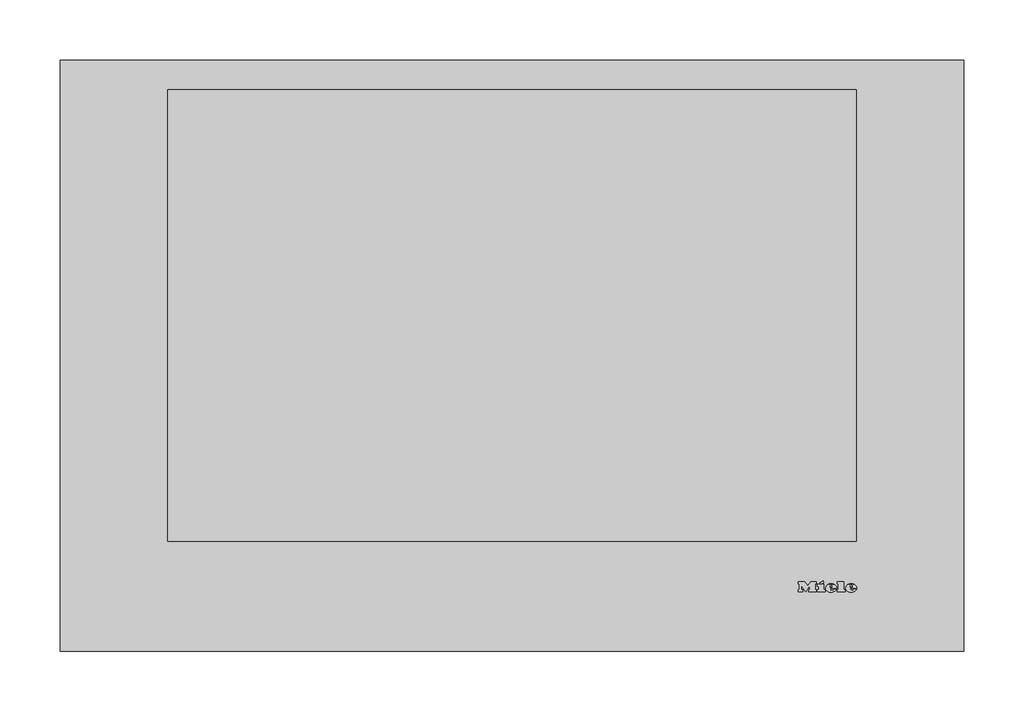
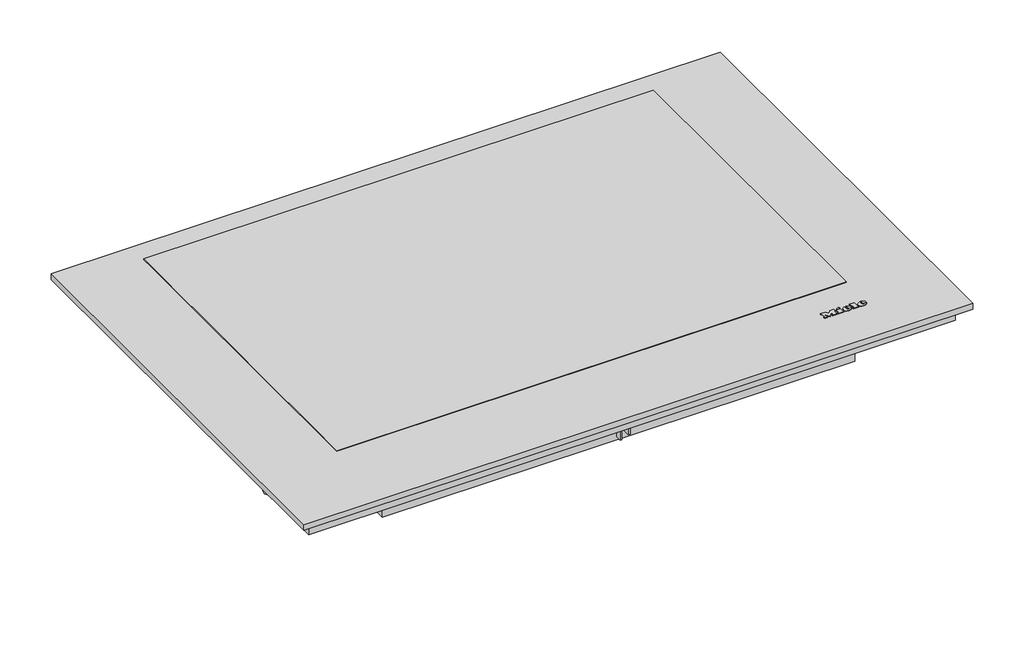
# Not in any storey: 1 proxy.
"""IFC4 building model written with IfcOpenShell, lengths in millimetres."""

from ifc_helpers import new_model, si_unit, origin, place, context, project, spatial, transform, mapped, element, save
from components import specialty_equipment_da10772c

model = new_model("IFC4")

# Units and contexts
model_context = context("Model", 3, world=origin())
ifc_project = project(units=[si_unit("LENGTHUNIT", "METRE", prefix="MILLI")], contexts=[model_context])

# Site, building
site = spatial("IfcSite", under=ifc_project)
building = spatial("IfcBuilding", under=site)

# Proxy
placement = place(None, origin())
specialty_equipment_shape = specialty_equipment_da10772c(model_context)
element("IfcBuildingElementProxy", 1, Name="11153560_CH_KM7617FX : 26761760_CH_11153560_KM7617FX", ObjectType="11153560_CH_KM7617FX : 26761760_CH_11153560_KM7617FX", at=placement, inside=building, context=model_context, shape_type="MappedRepresentation", body=[
    mapped(specialty_equipment_shape, transform((0.0, 0.0, 0.0), x_axis=(1.0, 0.0, 0.0), y_axis=(0.0, 1.0, 0.0), z_axis=(0.0, 0.0, 1.0))),
])

save(model, "model.ifc")
